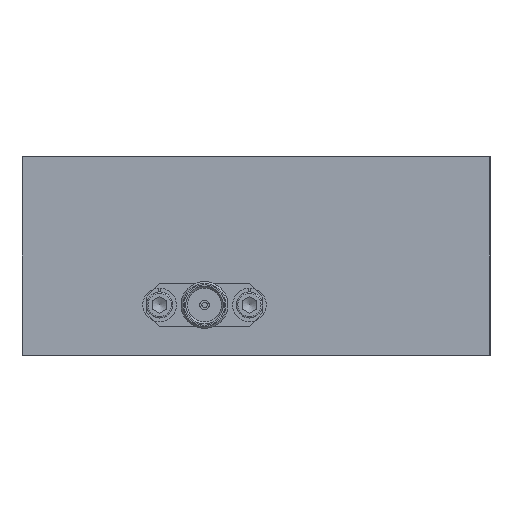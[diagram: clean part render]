
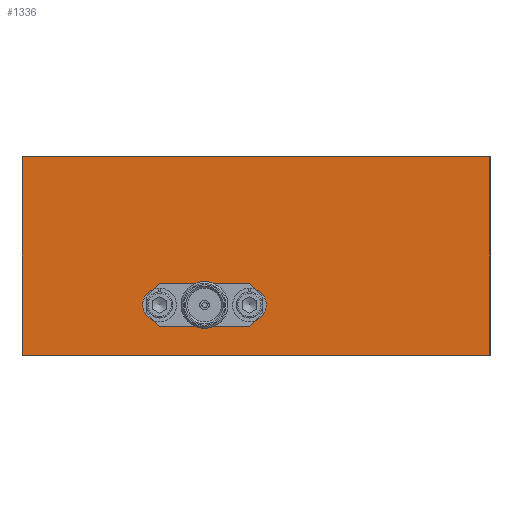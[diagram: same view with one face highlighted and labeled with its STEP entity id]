
A CAD part, left-side view. The second image highlights one B-rep face of the part: STEP entity #1336.
In plain terms, the highlighted planar face has unit normal (-1, 0, 0).
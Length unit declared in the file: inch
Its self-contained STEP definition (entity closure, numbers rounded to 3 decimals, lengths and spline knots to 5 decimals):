
#244=CARTESIAN_POINT('',(-3.0,1.25,1.063));
#245=VERTEX_POINT('',#244);
#252=CARTESIAN_POINT('',(-3.0,-1.25,1.063));
#253=VERTEX_POINT('',#252);
#254=CARTESIAN_POINT('',(-3.0,1.25,1.063));
#255=DIRECTION('',(0.0,-1.0,0.0));
#256=VECTOR('',#255,2.5);
#257=LINE('',#254,#256);
#258=EDGE_CURVE('',#245,#253,#257,.T.);
#525=CARTESIAN_POINT('',(-3.0,0.515,0.3035));
#526=VERTEX_POINT('',#525);
#527=CARTESIAN_POINT('',(-3.0,0.515,0.27));
#528=DIRECTION('',(1.0,0.0,0.0));
#529=DIRECTION('',(0.0,0.0,1.0));
#530=AXIS2_PLACEMENT_3D('',#527,#528,#529);
#531=CIRCLE('',#530,0.0335);
#532=EDGE_CURVE('',#526,#526,#531,.T.);
#555=CARTESIAN_POINT('',(-3.0,0.035,0.3035));
#556=VERTEX_POINT('',#555);
#557=CARTESIAN_POINT('',(-3.0,0.035,0.27));
#558=DIRECTION('',(1.0,0.0,0.0));
#559=DIRECTION('',(0.0,0.0,1.0));
#560=AXIS2_PLACEMENT_3D('',#557,#558,#559);
#561=CIRCLE('',#560,0.0335);
#562=EDGE_CURVE('',#556,#556,#561,.T.);
#854=CARTESIAN_POINT('',(-3.0,1.25,0.0));
#855=VERTEX_POINT('',#854);
#862=CARTESIAN_POINT('',(-3.0,1.25,0.0));
#863=DIRECTION('',(0.0,0.0,1.0));
#864=VECTOR('',#863,1.063);
#865=LINE('',#862,#864);
#866=EDGE_CURVE('',#855,#245,#865,.T.);
#1046=CARTESIAN_POINT('',(-3.0,-1.25,0.0));
#1047=VERTEX_POINT('',#1046);
#1048=CARTESIAN_POINT('',(-3.0,-1.25,0.0));
#1049=DIRECTION('',(0.0,0.0,1.0));
#1050=VECTOR('',#1049,1.063);
#1051=LINE('',#1048,#1050);
#1052=EDGE_CURVE('',#1047,#253,#1051,.T.);
#1314=CARTESIAN_POINT('',(-3.0,1.25,0.0));
#1315=DIRECTION('',(-1.0,0.0,0.0));
#1316=DIRECTION('',(0.0,-1.0,0.0));
#1317=AXIS2_PLACEMENT_3D('',#1314,#1315,#1316);
#1318=PLANE('',#1317);
#1319=CARTESIAN_POINT('',(-3.0,-1.25,0.0));
#1320=DIRECTION('',(0.0,1.0,0.0));
#1321=VECTOR('',#1320,2.5);
#1322=LINE('',#1319,#1321);
#1323=EDGE_CURVE('',#1047,#855,#1322,.T.);
#1324=ORIENTED_EDGE('',*,*,#1323,.F.);
#1325=ORIENTED_EDGE('',*,*,#1052,.T.);
#1326=ORIENTED_EDGE('',*,*,#258,.F.);
#1327=ORIENTED_EDGE('',*,*,#866,.F.);
#1328=EDGE_LOOP('',(#1324,#1325,#1326,#1327));
#1329=FACE_OUTER_BOUND('',#1328,.T.);
#1330=ORIENTED_EDGE('',*,*,#532,.T.);
#1331=EDGE_LOOP('',(#1330));
#1332=FACE_BOUND('',#1331,.T.);
#1333=ORIENTED_EDGE('',*,*,#562,.T.);
#1334=EDGE_LOOP('',(#1333));
#1335=FACE_BOUND('',#1334,.T.);
#1336=ADVANCED_FACE('',(#1329,#1332,#1335),#1318,.T.);
